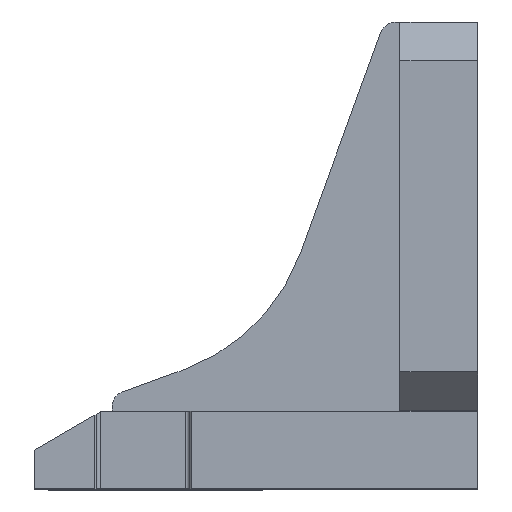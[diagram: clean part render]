
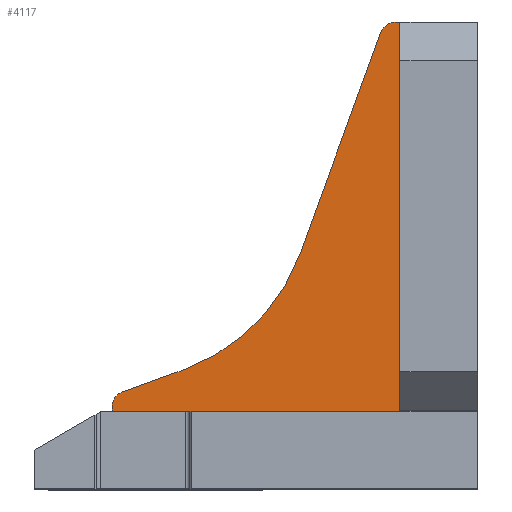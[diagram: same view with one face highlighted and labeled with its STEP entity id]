
A CAD part, top view. The second image highlights one B-rep face of the part: STEP entity #4117.
In plain terms, the highlighted planar face has unit normal (0, 0, 1).
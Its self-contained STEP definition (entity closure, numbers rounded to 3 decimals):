
#36 = ORIENTED_EDGE ( 'NONE', *, *, #3088, .T. ) ;
#154 = CARTESIAN_POINT ( 'NONE',  ( -47., 10.6, 32.4 ) ) ;
#161 = LINE ( 'NONE', #1293, #3609 ) ;
#178 = VERTEX_POINT ( 'NONE', #1441 ) ;
#195 = CARTESIAN_POINT ( 'NONE',  ( -10.6, 60., 32.4 ) ) ;
#258 = ORIENTED_EDGE ( 'NONE', *, *, #259, .T. ) ;
#259 = EDGE_CURVE ( 'NONE', #3099, #2583, #491, .T. ) ;
#307 = DIRECTION ( 'NONE',  ( 1., 0., 0. ) ) ;
#355 = DIRECTION ( 'NONE',  ( 0., 0., 1. ) ) ;
#380 = VECTOR ( 'NONE', #3633, 1000. ) ;
#401 = CARTESIAN_POINT ( 'NONE',  ( -47., 10., 32.4 ) ) ;
#491 = LINE ( 'NONE', #3617, #380 ) ;
#527 = LINE ( 'NONE', #3652, #2396 ) ;
#643 = LINE ( 'NONE', #3015, #1655 ) ;
#875 = LINE ( 'NONE', #1901, #1839 ) ;
#939 = ORIENTED_EDGE ( 'NONE', *, *, #4204, .T. ) ;
#941 = AXIS2_PLACEMENT_3D ( 'NONE', #2075, #1694, #3878 ) ;
#1033 = CARTESIAN_POINT ( 'NONE',  ( -45., 10.6, 32.4 ) ) ;
#1177 = VERTEX_POINT ( 'NONE', #195 ) ;
#1244 = DIRECTION ( 'NONE',  ( 0., -1., 0. ) ) ;
#1270 = ORIENTED_EDGE ( 'NONE', *, *, #4044, .T. ) ;
#1293 = CARTESIAN_POINT ( 'NONE',  ( -22.807, 30.309, 32.4 ) ) ;
#1419 = CARTESIAN_POINT ( 'NONE',  ( -12.479, 58.684, 32.4 ) ) ;
#1441 = CARTESIAN_POINT ( 'NONE',  ( -45.684, 12.479, 32.4 ) ) ;
#1491 = CARTESIAN_POINT ( 'NONE',  ( -47., 12., 32.4 ) ) ;
#1508 = DIRECTION ( 'NONE',  ( 0., 0., -1. ) ) ;
#1511 = ORIENTED_EDGE ( 'NONE', *, *, #2209, .T. ) ;
#1525 = CARTESIAN_POINT ( 'NONE',  ( -46.299, 38.86, 32.4 ) ) ;
#1655 = VECTOR ( 'NONE', #1244, 1000. ) ;
#1694 = DIRECTION ( 'NONE',  ( 0., 0., -1. ) ) ;
#1723 = PLANE ( 'NONE',  #941 ) ;
#1818 = DIRECTION ( 'NONE',  ( -1., 0., 0. ) ) ;
#1839 = VECTOR ( 'NONE', #1818, 1000. ) ;
#1901 = CARTESIAN_POINT ( 'NONE',  ( -12., 60., 32.4 ) ) ;
#1975 = DIRECTION ( 'NONE',  ( 0., 0., 1. ) ) ;
#2051 = CARTESIAN_POINT ( 'NONE',  ( -10., 10., 32.4 ) ) ;
#2075 = CARTESIAN_POINT ( 'NONE',  ( -46.299, 38.86, 32.4 ) ) ;
#2077 = CIRCLE ( 'NONE', #4415, 25. ) ;
#2078 = ORIENTED_EDGE ( 'NONE', *, *, #2148, .T. ) ;
#2148 = EDGE_CURVE ( 'NONE', #4757, #3099, #527, .T. ) ;
#2172 = CARTESIAN_POINT ( 'NONE',  ( -37.748, 15.367, 32.4 ) ) ;
#2209 = EDGE_CURVE ( 'NONE', #1177, #2334, #4658, .T. ) ;
#2237 = EDGE_CURVE ( 'NONE', #178, #3501, #3732, .T. ) ;
#2241 = DIRECTION ( 'NONE',  ( -1., 0., 0. ) ) ;
#2266 = EDGE_CURVE ( 'NONE', #2334, #4043, #161, .T. ) ;
#2307 = VERTEX_POINT ( 'NONE', #2172 ) ;
#2334 = VERTEX_POINT ( 'NONE', #1419 ) ;
#2396 = VECTOR ( 'NONE', #307, 1000. ) ;
#2583 = VERTEX_POINT ( 'NONE', #3727 ) ;
#3015 = CARTESIAN_POINT ( 'NONE',  ( -47., 10., 32.4 ) ) ;
#3065 = ORIENTED_EDGE ( 'NONE', *, *, #2237, .T. ) ;
#3088 = EDGE_CURVE ( 'NONE', #2583, #1177, #875, .T. ) ;
#3099 = VERTEX_POINT ( 'NONE', #2051 ) ;
#3101 = ORIENTED_EDGE ( 'NONE', *, *, #2266, .T. ) ;
#3107 = VECTOR ( 'NONE', #3360, 1000. ) ;
#3191 = ORIENTED_EDGE ( 'NONE', *, *, #4354, .T. ) ;
#3254 = EDGE_LOOP ( 'NONE', ( #1270, #3065, #939, #2078, #258, #36, #1511, #3101, #3191 ) ) ;
#3342 = CARTESIAN_POINT ( 'NONE',  ( -22.807, 30.309, 32.4 ) ) ;
#3360 = DIRECTION ( 'NONE',  ( -0.94, -0.342, 0. ) ) ;
#3501 = VERTEX_POINT ( 'NONE', #154 ) ;
#3517 = DIRECTION ( 'NONE',  ( -0.342, -0.94, 0. ) ) ;
#3549 = AXIS2_PLACEMENT_3D ( 'NONE', #3712, #355, #2241 ) ;
#3609 = VECTOR ( 'NONE', #3517, 1000. ) ;
#3617 = CARTESIAN_POINT ( 'NONE',  ( -10., 60., 32.4 ) ) ;
#3633 = DIRECTION ( 'NONE',  ( 0., 1., 0. ) ) ;
#3652 = CARTESIAN_POINT ( 'NONE',  ( -10., 10., 32.4 ) ) ;
#3712 = CARTESIAN_POINT ( 'NONE',  ( -10.6, 58., 32.4 ) ) ;
#3721 = DIRECTION ( 'NONE',  ( -1., 0., 0. ) ) ;
#3727 = CARTESIAN_POINT ( 'NONE',  ( -10., 60., 32.4 ) ) ;
#3732 = CIRCLE ( 'NONE', #4518, 2. ) ;
#3817 = DIRECTION ( 'NONE',  ( -1., 0., 0. ) ) ;
#3878 = DIRECTION ( 'NONE',  ( -1., 0., 0. ) ) ;
#3950 = FACE_OUTER_BOUND ( 'NONE', #3254, .T. ) ;
#4043 = VERTEX_POINT ( 'NONE', #3342 ) ;
#4044 = EDGE_CURVE ( 'NONE', #2307, #178, #4067, .T. ) ;
#4067 = LINE ( 'NONE', #1491, #3107 ) ;
#4117 = ADVANCED_FACE ( 'NONE', ( #3950 ), #1723, .F. ) ;
#4204 = EDGE_CURVE ( 'NONE', #3501, #4757, #643, .T. ) ;
#4354 = EDGE_CURVE ( 'NONE', #4043, #2307, #2077, .T. ) ;
#4415 = AXIS2_PLACEMENT_3D ( 'NONE', #1525, #1508, #3721 ) ;
#4518 = AXIS2_PLACEMENT_3D ( 'NONE', #1033, #1975, #3817 ) ;
#4658 = CIRCLE ( 'NONE', #3549, 2. ) ;
#4757 = VERTEX_POINT ( 'NONE', #401 ) ;
